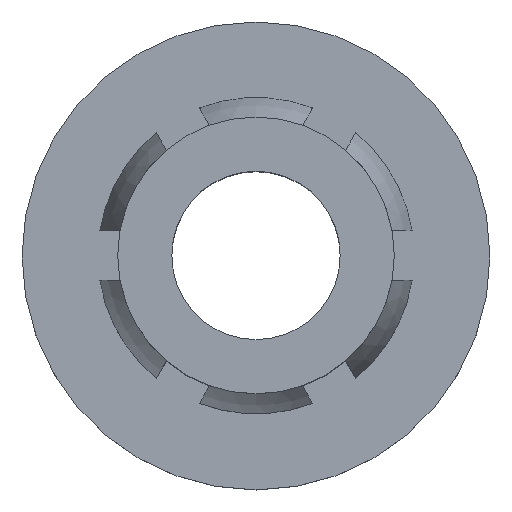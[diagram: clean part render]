
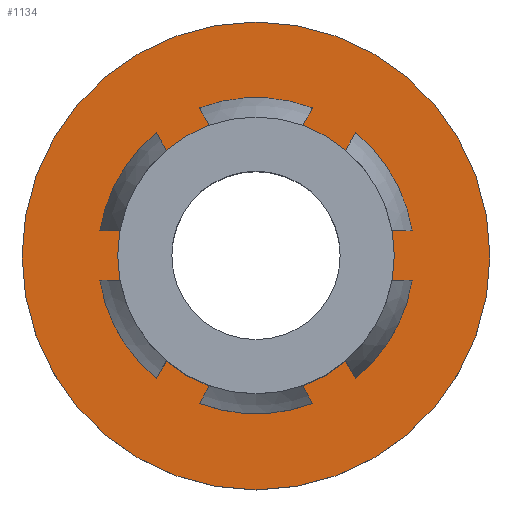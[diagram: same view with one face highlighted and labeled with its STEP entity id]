
A CAD part, top view. The second image highlights one B-rep face of the part: STEP entity #1134.
In plain terms, the highlighted planar face has unit normal (0, 0, 1).
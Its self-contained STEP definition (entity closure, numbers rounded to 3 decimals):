
#63 = EDGE_CURVE ( 'NONE', #739, #739, #701, .T. ) ;
#302 = CARTESIAN_POINT ( 'NONE',  ( 7.058, 0., -18.516 ) ) ;
#387 = CIRCLE ( 'NONE', #1035, 2.223 ) ;
#409 = FACE_OUTER_BOUND ( 'NONE', #1190, .T. ) ;
#624 = EDGE_CURVE ( 'NONE', #709, #709, #387, .T. ) ;
#676 = PLANE ( 'NONE',  #1315 ) ;
#701 = CIRCLE ( 'NONE', #888, 3.759 ) ;
#709 = VERTEX_POINT ( 'NONE', #302 ) ;
#739 = VERTEX_POINT ( 'NONE', #1320 ) ;
#766 = DIRECTION ( 'NONE',  ( -1., 0., 0. ) ) ;
#797 = DIRECTION ( 'NONE',  ( 0., 0., -1. ) ) ;
#888 = AXIS2_PLACEMENT_3D ( 'NONE', #968, #1208, #960 ) ;
#891 = CARTESIAN_POINT ( 'NONE',  ( 9.281, 0., -18.516 ) ) ;
#960 = DIRECTION ( 'NONE',  ( -1., 0., 0. ) ) ;
#968 = CARTESIAN_POINT ( 'NONE',  ( 9.281, 0., -18.516 ) ) ;
#1019 = DIRECTION ( 'NONE',  ( 0., 0., -1. ) ) ;
#1035 = AXIS2_PLACEMENT_3D ( 'NONE', #891, #1019, #1389 ) ;
#1056 = FACE_BOUND ( 'NONE', #1199, .T. ) ;
#1134 = ADVANCED_FACE ( 'NONE', ( #1056, #409 ), #676, .F. ) ;
#1173 = ORIENTED_EDGE ( 'NONE', *, *, #63, .F. ) ;
#1190 = EDGE_LOOP ( 'NONE', ( #1173 ) ) ;
#1199 = EDGE_LOOP ( 'NONE', ( #1571 ) ) ;
#1208 = DIRECTION ( 'NONE',  ( 0., 0., -1. ) ) ;
#1315 = AXIS2_PLACEMENT_3D ( 'NONE', #1430, #797, #766 ) ;
#1320 = CARTESIAN_POINT ( 'NONE',  ( 5.521, 0., -18.516 ) ) ;
#1389 = DIRECTION ( 'NONE',  ( -1., 0., 0. ) ) ;
#1430 = CARTESIAN_POINT ( 'NONE',  ( 13.04, 0., -18.516 ) ) ;
#1571 = ORIENTED_EDGE ( 'NONE', *, *, #624, .T. ) ;
